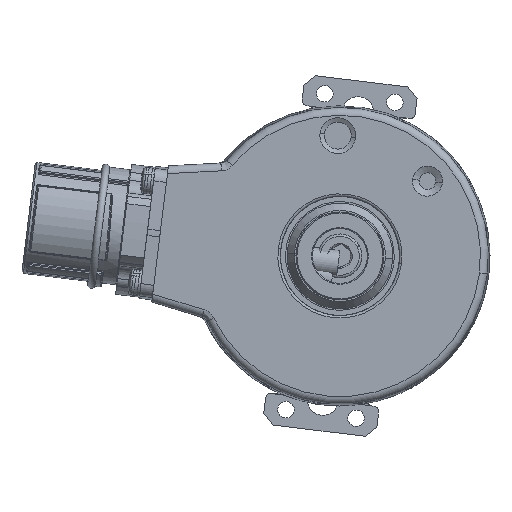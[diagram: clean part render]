
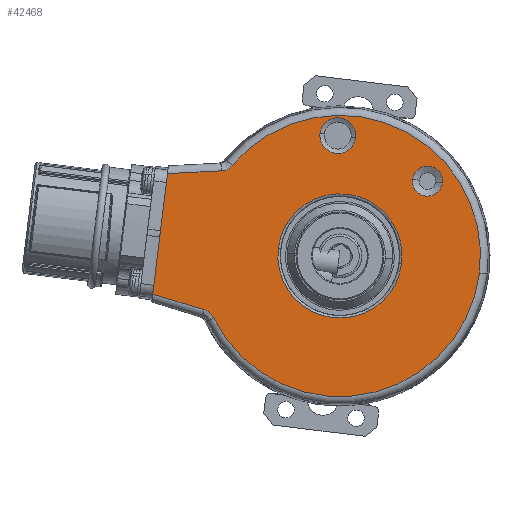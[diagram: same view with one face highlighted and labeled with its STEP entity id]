
A CAD part, left-side view. The second image highlights one B-rep face of the part: STEP entity #42468.
In plain terms, the highlighted planar face has unit normal (-1, 0, 0).
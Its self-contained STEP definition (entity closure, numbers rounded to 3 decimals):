
#1937 = CARTESIAN_POINT ( 'NONE',  ( -19., -3.034, 22.824 ) ) ;
#2017 = CARTESIAN_POINT ( 'NONE',  ( -19., 11.911, 1.462 ) ) ;
#2095 = CARTESIAN_POINT ( 'NONE',  ( -19., -26.97, -3.312 ) ) ;
#2701 = CARTESIAN_POINT ( 'NONE',  ( -19., 24.396, -11.966 ) ) ;
#2713 = CARTESIAN_POINT ( 'NONE',  ( -19., 22.914, 16.45 ) ) ;
#2724 = CARTESIAN_POINT ( 'NONE',  ( -19., -11.911, -1.462 ) ) ;
#2729 = CARTESIAN_POINT ( 'NONE',  ( -19., 33.31, 15.905 ) ) ;
#2749 = CARTESIAN_POINT ( 'NONE',  ( -19., 36.168, -7.374 ) ) ;
#2754 = CARTESIAN_POINT ( 'NONE',  ( -19., 26.213, -10.418 ) ) ;
#4081 = CARTESIAN_POINT ( 'NONE',  ( -19., 0.406, 23.246 ) ) ;
#4088 = DIRECTION ( 'NONE',  ( 1., 0., 0. ) ) ;
#4089 = DIRECTION ( 'NONE',  ( 0., -0.993, -0.122 ) ) ;
#6487 = CARTESIAN_POINT ( 'NONE',  ( -19., 0., 0. ) ) ;
#6488 = DIRECTION ( 'NONE',  ( -1., 0., 0. ) ) ;
#6490 = DIRECTION ( 'NONE',  ( 0., -0.993, -0.122 ) ) ;
#6491 = CARTESIAN_POINT ( 'NONE',  ( -19., 24.396, -11.966 ) ) ;
#6493 = CARTESIAN_POINT ( 'NONE',  ( -19., 24.487, -11.781 ) ) ;
#6495 = CARTESIAN_POINT ( 'NONE',  ( -19., 24.597, -11.605 ) ) ;
#6497 = CARTESIAN_POINT ( 'NONE',  ( -19., 24.848, -11.282 ) ) ;
#6498 = CARTESIAN_POINT ( 'NONE',  ( -19., 24.989, -11.135 ) ) ;
#6499 = CARTESIAN_POINT ( 'NONE',  ( -19., 25.3, -10.87 ) ) ;
#6500 = CARTESIAN_POINT ( 'NONE',  ( -19., 25.471, -10.753 ) ) ;
#6501 = CARTESIAN_POINT ( 'NONE',  ( -19., 25.828, -10.557 ) ) ;
#6502 = CARTESIAN_POINT ( 'NONE',  ( -19., 26.016, -10.478 ) ) ;
#6504 = CARTESIAN_POINT ( 'NONE',  ( -19., 26.213, -10.418 ) ) ;
#6505 = CARTESIAN_POINT ( 'NONE',  ( -19., 22.914, 16.45 ) ) ;
#6506 = LINE ( 'NONE', #6507, #40347 ) ;
#6507 = CARTESIAN_POINT ( 'NONE',  ( -19., 25.556, -10.618 ) ) ;
#6508 = DIRECTION ( 'NONE',  ( 0., -0.956, -0.292 ) ) ;
#6510 = LINE ( 'NONE', #6511, #40302 ) ;
#6511 = CARTESIAN_POINT ( 'NONE',  ( -19., 36.354, -8.886 ) ) ;
#6512 = DIRECTION ( 'NONE',  ( 0., -0.122, 0.993 ) ) ;
#6513 = CARTESIAN_POINT ( 'NONE',  ( -19., 22.708, 16.461 ) ) ;
#6515 = CARTESIAN_POINT ( 'NONE',  ( -19., 22.503, 16.493 ) ) ;
#6516 = CARTESIAN_POINT ( 'NONE',  ( -19., 22.108, 16.597 ) ) ;
#6518 = CARTESIAN_POINT ( 'NONE',  ( -19., 21.917, 16.669 ) ) ;
#6520 = CARTESIAN_POINT ( 'NONE',  ( -19., 21.552, 16.851 ) ) ;
#6521 = CARTESIAN_POINT ( 'NONE',  ( -19., 21.376, 16.962 ) ) ;
#6522 = CARTESIAN_POINT ( 'NONE',  ( -19., 21.056, 17.213 ) ) ;
#6524 = CARTESIAN_POINT ( 'NONE',  ( -19., 20.91, 17.355 ) ) ;
#6526 = CARTESIAN_POINT ( 'NONE',  ( -19., 20.777, 17.512 ) ) ;
#6527 = CARTESIAN_POINT ( 'NONE',  ( -19., 0., 0. ) ) ;
#6528 = DIRECTION ( 'NONE',  ( 1., 0., 0. ) ) ;
#6529 = DIRECTION ( 'NONE',  ( 0., -0.993, -0.122 ) ) ;
#6530 = CARTESIAN_POINT ( 'NONE',  ( -19., 0.406, 23.246 ) ) ;
#6531 = DIRECTION ( 'NONE',  ( 1., 0., 0. ) ) ;
#6533 = DIRECTION ( 'NONE',  ( 0., -0.993, -0.122 ) ) ;
#6534 = CARTESIAN_POINT ( 'NONE',  ( -19., -16.919, 14.45 ) ) ;
#6536 = DIRECTION ( 'NONE',  ( 1., 0., 0. ) ) ;
#6537 = DIRECTION ( 'NONE',  ( 0., -0.993, -0.122 ) ) ;
#6539 = LINE ( 'NONE', #6541, #40298 ) ;
#6541 = CARTESIAN_POINT ( 'NONE',  ( -19., 33.046, 15.919 ) ) ;
#6543 = DIRECTION ( 'NONE',  ( 0., 0.999, -0.052 ) ) ;
#7916 = VERTEX_POINT ( 'NONE', #46237 ) ;
#7955 = EDGE_LOOP ( 'NONE', ( #44661, #44663, #44662, #44664, #44665, #44666, #44667 ) ) ;
#8101 = VERTEX_POINT ( 'NONE', #46344 ) ;
#8356 = EDGE_LOOP ( 'NONE', ( #44655, #44656 ) ) ;
#10834 = CIRCLE ( 'NONE', #12794, 12. ) ;
#10841 = CIRCLE ( 'NONE', #13262, 27.173 ) ;
#11167 = CIRCLE ( 'NONE', #38709, 3.466 ) ;
#11385 = CIRCLE ( 'NONE', #42777, 2.899 ) ;
#12794 = AXIS2_PLACEMENT_3D ( 'NONE', #28061, #28062, #28063 ) ;
#13262 = AXIS2_PLACEMENT_3D ( 'NONE', #28005, #28009, #28010 ) ;
#18145 = CARTESIAN_POINT ( 'NONE',  ( -19., 20.777, 17.512 ) ) ;
#21757 = CIRCLE ( 'NONE', #40258, 2.899 ) ;
#21758 = CIRCLE ( 'NONE', #40726, 3.466 ) ;
#21759 = CIRCLE ( 'NONE', #40166, 12. ) ;
#21760 = CIRCLE ( 'NONE', #40356, 27.173 ) ;
#23569 = PLANE ( 'NONE',  #39696 ) ;
#23570 = CARTESIAN_POINT ( 'NONE',  ( -19., 0., 0. ) ) ;
#23571 = DIRECTION ( 'NONE',  ( 1., 0., 0. ) ) ;
#23572 = DIRECTION ( 'NONE',  ( 0., -0.993, -0.122 ) ) ;
#28005 = CARTESIAN_POINT ( 'NONE',  ( -19., 0., 0. ) ) ;
#28009 = DIRECTION ( 'NONE',  ( -1., 0., 0. ) ) ;
#28010 = DIRECTION ( 'NONE',  ( 0., -0.993, -0.122 ) ) ;
#28061 = CARTESIAN_POINT ( 'NONE',  ( -19., 0., 0. ) ) ;
#28062 = DIRECTION ( 'NONE',  ( 1., 0., 0. ) ) ;
#28063 = DIRECTION ( 'NONE',  ( 0., -0.993, -0.122 ) ) ;
#33640 = EDGE_CURVE ( 'NONE', #37007, #36034, #21760, .T. ) ;
#33641 = EDGE_CURVE ( 'NONE', #37007, #37265, #33759, .T. ) ;
#33642 = EDGE_CURVE ( 'NONE', #37248, #37265, #6506, .T. ) ;
#33643 = EDGE_CURVE ( 'NONE', #37248, #37140, #6510, .T. ) ;
#33644 = EDGE_CURVE ( 'NONE', #37071, #45119, #33765, .T. ) ;
#33645 = EDGE_CURVE ( 'NONE', #35895, #37114, #21759, .T. ) ;
#33646 = EDGE_CURVE ( 'NONE', #34758, #51408, #21758, .T. ) ;
#33647 = EDGE_CURVE ( 'NONE', #7916, #8101, #21757, .T. ) ;
#33648 = EDGE_CURVE ( 'NONE', #37071, #37140, #6539, .T. ) ;
#33759 = B_SPLINE_CURVE_WITH_KNOTS ( 'NONE', 3,
 ( #6491, #6493, #6495, #6497, #6498, #6499, #6500, #6501, #6502, #6504 ),
 .UNSPECIFIED., .F., .F.,
 ( 4, 2, 2, 2, 4 ),
 ( 0., 0.001, 0.001, 0.002, 0.002 ),
 .UNSPECIFIED. ) ;
#33765 = B_SPLINE_CURVE_WITH_KNOTS ( 'NONE', 3,
 ( #6505, #6513, #6515, #6516, #6518, #6520, #6521, #6522, #6524, #6526 ),
 .UNSPECIFIED., .F., .F.,
 ( 4, 2, 2, 2, 4 ),
 ( 0., 0.001, 0.001, 0.002, 0.002 ),
 .UNSPECIFIED. ) ;
#34758 = VERTEX_POINT ( 'NONE', #1937 ) ;
#34800 = EDGE_LOOP ( 'NONE', ( #44660, #44659 ) ) ;
#34827 = EDGE_LOOP ( 'NONE', ( #44658, #44657 ) ) ;
#35895 = VERTEX_POINT ( 'NONE', #2017 ) ;
#36034 = VERTEX_POINT ( 'NONE', #2095 ) ;
#37007 = VERTEX_POINT ( 'NONE', #2701 ) ;
#37071 = VERTEX_POINT ( 'NONE', #2713 ) ;
#37114 = VERTEX_POINT ( 'NONE', #2724 ) ;
#37140 = VERTEX_POINT ( 'NONE', #2729 ) ;
#37248 = VERTEX_POINT ( 'NONE', #2749 ) ;
#37265 = VERTEX_POINT ( 'NONE', #2754 ) ;
#38709 = AXIS2_PLACEMENT_3D ( 'NONE', #4081, #4088, #4089 ) ;
#39552 = FACE_OUTER_BOUND ( 'NONE', #7955, .T. ) ;
#39616 = FACE_BOUND ( 'NONE', #8356, .T. ) ;
#39696 = AXIS2_PLACEMENT_3D ( 'NONE', #23570, #23571, #23572 ) ;
#39702 = FACE_BOUND ( 'NONE', #34800, .T. ) ;
#39716 = FACE_BOUND ( 'NONE', #34827, .T. ) ;
#40166 = AXIS2_PLACEMENT_3D ( 'NONE', #6527, #6528, #6529 ) ;
#40258 = AXIS2_PLACEMENT_3D ( 'NONE', #6534, #6536, #6537 ) ;
#40298 = VECTOR ( 'NONE', #6543, 1000. ) ;
#40302 = VECTOR ( 'NONE', #6512, 1000. ) ;
#40347 = VECTOR ( 'NONE', #6508, 1000. ) ;
#40356 = AXIS2_PLACEMENT_3D ( 'NONE', #6487, #6488, #6490 ) ;
#40726 = AXIS2_PLACEMENT_3D ( 'NONE', #6530, #6531, #6533 ) ;
#42468 = ADVANCED_FACE ( 'NONE', ( #39616, #39716, #39702, #39552 ), #23569, .F. ) ;
#42777 = AXIS2_PLACEMENT_3D ( 'NONE', #52342, #52343, #52344 ) ;
#44655 = ORIENTED_EDGE ( 'NONE', *, *, #48969, .T. ) ;
#44656 = ORIENTED_EDGE ( 'NONE', *, *, #33647, .T. ) ;
#44657 = ORIENTED_EDGE ( 'NONE', *, *, #33646, .T. ) ;
#44658 = ORIENTED_EDGE ( 'NONE', *, *, #49984, .T. ) ;
#44659 = ORIENTED_EDGE ( 'NONE', *, *, #33645, .T. ) ;
#44660 = ORIENTED_EDGE ( 'NONE', *, *, #50956, .T. ) ;
#44661 = ORIENTED_EDGE ( 'NONE', *, *, #33644, .F. ) ;
#44662 = ORIENTED_EDGE ( 'NONE', *, *, #33643, .F. ) ;
#44663 = ORIENTED_EDGE ( 'NONE', *, *, #33648, .T. ) ;
#44664 = ORIENTED_EDGE ( 'NONE', *, *, #33642, .T. ) ;
#44665 = ORIENTED_EDGE ( 'NONE', *, *, #33641, .F. ) ;
#44666 = ORIENTED_EDGE ( 'NONE', *, *, #33640, .T. ) ;
#44667 = ORIENTED_EDGE ( 'NONE', *, *, #50944, .T. ) ;
#45119 = VERTEX_POINT ( 'NONE', #18145 ) ;
#46237 = CARTESIAN_POINT ( 'NONE',  ( -19., -19.796, 14.097 ) ) ;
#46344 = CARTESIAN_POINT ( 'NONE',  ( -19., -14.042, 14.804 ) ) ;
#48969 = EDGE_CURVE ( 'NONE', #8101, #7916, #11385, .T. ) ;
#49984 = EDGE_CURVE ( 'NONE', #51408, #34758, #11167, .T. ) ;
#50104 = CARTESIAN_POINT ( 'NONE',  ( -19., 3.846, 23.669 ) ) ;
#50944 = EDGE_CURVE ( 'NONE', #36034, #45119, #10841, .T. ) ;
#50956 = EDGE_CURVE ( 'NONE', #37114, #35895, #10834, .T. ) ;
#51408 = VERTEX_POINT ( 'NONE', #50104 ) ;
#52342 = CARTESIAN_POINT ( 'NONE',  ( -19., -16.919, 14.45 ) ) ;
#52343 = DIRECTION ( 'NONE',  ( 1., 0., 0. ) ) ;
#52344 = DIRECTION ( 'NONE',  ( 0., -0.993, -0.122 ) ) ;
